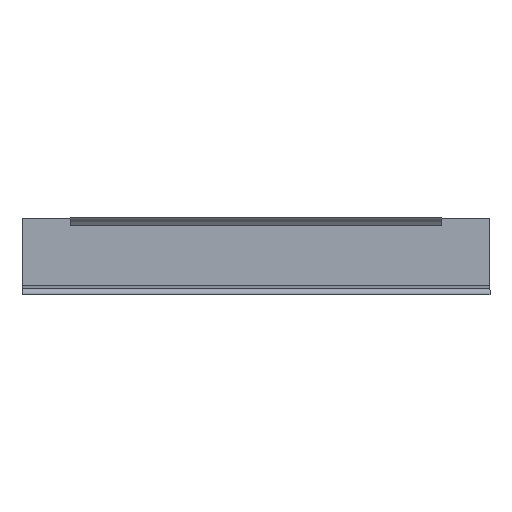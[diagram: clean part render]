
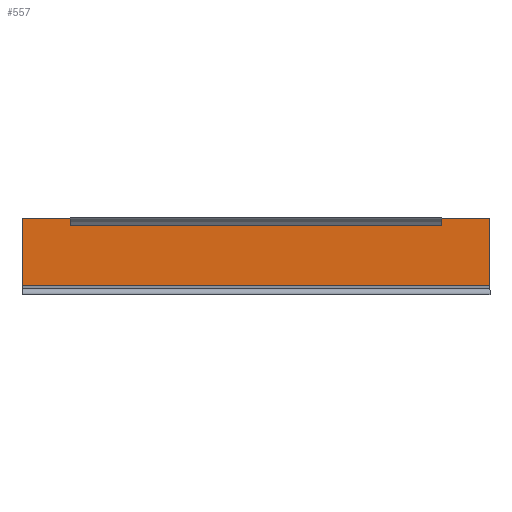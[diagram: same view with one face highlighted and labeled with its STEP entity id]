
A CAD part, left-side view. The second image highlights one B-rep face of the part: STEP entity #557.
In plain terms, the highlighted planar face has unit normal (-1, 0, 0).
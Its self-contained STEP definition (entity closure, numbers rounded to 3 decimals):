
#27 = ORIENTED_EDGE ( 'NONE', *, *, #516, .F. ) ;
#28 = ORIENTED_EDGE ( 'NONE', *, *, #545, .F. ) ;
#32 = ORIENTED_EDGE ( 'NONE', *, *, #515, .T. ) ;
#66 = ORIENTED_EDGE ( 'NONE', *, *, #510, .F. ) ;
#67 = ORIENTED_EDGE ( 'NONE', *, *, #537, .F. ) ;
#71 = ORIENTED_EDGE ( 'NONE', *, *, #543, .T. ) ;
#82 = EDGE_LOOP ( 'NONE', ( #67, #88, #27, #28, #66, #71, #90, #32 ) ) ;
#88 = ORIENTED_EDGE ( 'NONE', *, *, #549, .T. ) ;
#90 = ORIENTED_EDGE ( 'NONE', *, *, #547, .T. ) ;
#159 = CARTESIAN_POINT ( 'NONE',  ( 6.024, 34., -2.932 ) ) ;
#163 = DIRECTION ( 'NONE',  ( 0., 0., -1. ) ) ;
#164 = DIRECTION ( 'NONE',  ( -1., 0., 0. ) ) ;
#171 = CARTESIAN_POINT ( 'NONE',  ( 6.024, 329.5, -9.925 ) ) ;
#174 = PLANE ( 'NONE',  #491 ) ;
#189 = DIRECTION ( 'NONE',  ( 0., 1., 0. ) ) ;
#190 = CARTESIAN_POINT ( 'NONE',  ( 6.024, 329.5, -4.106 ) ) ;
#194 = DIRECTION ( 'NONE',  ( 0., 0., -1. ) ) ;
#195 = CARTESIAN_POINT ( 'NONE',  ( 6.024, 329.5, -8.71 ) ) ;
#205 = VERTEX_POINT ( 'NONE', #239 ) ;
#218 = VERTEX_POINT ( 'NONE', #246 ) ;
#219 = VERTEX_POINT ( 'NONE', #243 ) ;
#223 = VERTEX_POINT ( 'NONE', #251 ) ;
#226 = VERTEX_POINT ( 'NONE', #275 ) ;
#239 = CARTESIAN_POINT ( 'NONE',  ( 6.024, 329.5, -51.31 ) ) ;
#243 = CARTESIAN_POINT ( 'NONE',  ( 6.024, 0., -4.106 ) ) ;
#246 = CARTESIAN_POINT ( 'NONE',  ( 6.024, 0., -51.31 ) ) ;
#251 = CARTESIAN_POINT ( 'NONE',  ( 6.024, 295.5, -8.71 ) ) ;
#256 = DIRECTION ( 'NONE',  ( 0., -1., 0. ) ) ;
#257 = CARTESIAN_POINT ( 'NONE',  ( 6.024, 329.5, -8.71 ) ) ;
#263 = DIRECTION ( 'NONE',  ( 0., 1., 0. ) ) ;
#264 = CARTESIAN_POINT ( 'NONE',  ( 6.024, 329.5, -4.106 ) ) ;
#266 = CARTESIAN_POINT ( 'NONE',  ( 6.024, 295.5, -4.106 ) ) ;
#269 = CARTESIAN_POINT ( 'NONE',  ( 6.024, 34., -4.106 ) ) ;
#270 = CARTESIAN_POINT ( 'NONE',  ( 6.024, 329.5, -4.106 ) ) ;
#275 = CARTESIAN_POINT ( 'NONE',  ( 6.024, 34., -8.71 ) ) ;
#300 = DIRECTION ( 'NONE',  ( 0., 0., -1. ) ) ;
#302 = CARTESIAN_POINT ( 'NONE',  ( 6.024, 295.5, -2.932 ) ) ;
#303 = VERTEX_POINT ( 'NONE', #270 ) ;
#304 = VERTEX_POINT ( 'NONE', #269 ) ;
#310 = VERTEX_POINT ( 'NONE', #266 ) ;
#321 = DIRECTION ( 'NONE',  ( 0., 0., -1. ) ) ;
#322 = CARTESIAN_POINT ( 'NONE',  ( 6.024, 0., -9.925 ) ) ;
#355 = DIRECTION ( 'NONE',  ( 0., 0., 1. ) ) ;
#357 = DIRECTION ( 'NONE',  ( 0., -1., 0. ) ) ;
#358 = CARTESIAN_POINT ( 'NONE',  ( 6.024, 329.5, -51.31 ) ) ;
#388 = VECTOR ( 'NONE', #355, 1000. ) ;
#389 = VECTOR ( 'NONE', #357, 1000. ) ;
#390 = LINE ( 'NONE', #358, #389 ) ;
#392 = LINE ( 'NONE', #159, #388 ) ;
#396 = VECTOR ( 'NONE', #300, 1000. ) ;
#400 = LINE ( 'NONE', #302, #396 ) ;
#491 = AXIS2_PLACEMENT_3D ( 'NONE', #171, #164, #163 ) ;
#510 = EDGE_CURVE ( 'NONE', #310, #223, #400, .T. ) ;
#515 = EDGE_CURVE ( 'NONE', #205, #218, #390, .T. ) ;
#516 = EDGE_CURVE ( 'NONE', #226, #304, #392, .T. ) ;
#537 = EDGE_CURVE ( 'NONE', #219, #218, #639, .T. ) ;
#543 = EDGE_CURVE ( 'NONE', #310, #303, #590, .T. ) ;
#545 = EDGE_CURVE ( 'NONE', #223, #226, #594, .T. ) ;
#547 = EDGE_CURVE ( 'NONE', #303, #205, #579, .T. ) ;
#549 = EDGE_CURVE ( 'NONE', #219, #304, #600, .T. ) ;
#557 = ADVANCED_FACE ( 'NONE', ( #610 ), #174, .T. ) ;
#579 = LINE ( 'NONE', #195, #581 ) ;
#581 = VECTOR ( 'NONE', #194, 1000. ) ;
#583 = VECTOR ( 'NONE', #321, 1000. ) ;
#590 = LINE ( 'NONE', #264, #591 ) ;
#591 = VECTOR ( 'NONE', #263, 1000. ) ;
#594 = LINE ( 'NONE', #257, #595 ) ;
#595 = VECTOR ( 'NONE', #256, 1000. ) ;
#600 = LINE ( 'NONE', #190, #601 ) ;
#601 = VECTOR ( 'NONE', #189, 1000. ) ;
#610 = FACE_OUTER_BOUND ( 'NONE', #82, .T. ) ;
#639 = LINE ( 'NONE', #322, #583 ) ;
